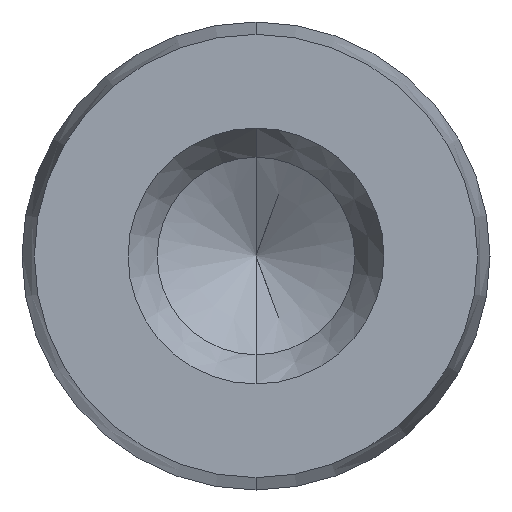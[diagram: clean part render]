
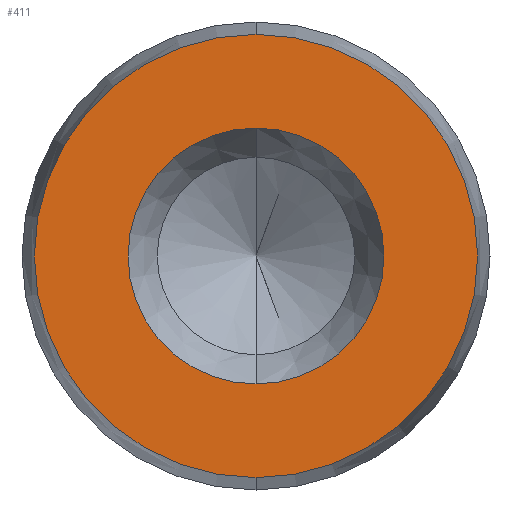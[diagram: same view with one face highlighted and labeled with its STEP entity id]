
A CAD part, front view. The second image highlights one B-rep face of the part: STEP entity #411.
In plain terms, the highlighted planar face has unit normal (0, -1, 0).
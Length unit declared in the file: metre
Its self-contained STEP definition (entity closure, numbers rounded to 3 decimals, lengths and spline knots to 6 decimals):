
#15 = DIRECTION ( 'NONE',  ( 0., -1., 0. ) ) ;
#20 = CARTESIAN_POINT ( 'NONE',  ( 0., 0., -0.007578 ) ) ;
#27 = DIRECTION ( 'NONE',  ( 0., 0., -1. ) ) ;
#33 = CARTESIAN_POINT ( 'NONE',  ( 0., 0., 0. ) ) ;
#57 = FACE_OUTER_BOUND ( 'NONE', #317, .T. ) ;
#100 = DIRECTION ( 'NONE',  ( 0., 0., -1. ) ) ;
#101 = DIRECTION ( 'NONE',  ( 0., -1., 0. ) ) ;
#118 = PLANE ( 'NONE',  #462 ) ;
#119 = CARTESIAN_POINT ( 'NONE',  ( 0., 0., 0. ) ) ;
#122 = DIRECTION ( 'NONE',  ( 0., -1., 0. ) ) ;
#146 = DIRECTION ( 'NONE',  ( 0., 0., -1. ) ) ;
#168 = CARTESIAN_POINT ( 'NONE',  ( 0., 0., 0.004375 ) ) ;
#179 = CARTESIAN_POINT ( 'NONE',  ( 0., 0., -0.004375 ) ) ;
#180 = CARTESIAN_POINT ( 'NONE',  ( 0., 0., 0. ) ) ;
#182 = DIRECTION ( 'NONE',  ( 0., 0., -1. ) ) ;
#184 = DIRECTION ( 'NONE',  ( 0., -1., 0. ) ) ;
#193 = CARTESIAN_POINT ( 'NONE',  ( 0.004375, 0., 0. ) ) ;
#195 = DIRECTION ( 'NONE',  ( 0., -1., 0. ) ) ;
#201 = DIRECTION ( 'NONE',  ( 0., 0., -1. ) ) ;
#213 = CARTESIAN_POINT ( 'NONE',  ( 0., 0., 0. ) ) ;
#233 = CARTESIAN_POINT ( 'NONE',  ( 0., 0., 0.007578 ) ) ;
#248 = FACE_BOUND ( 'NONE', #311, .T. ) ;
#284 = ORIENTED_EDGE ( 'NONE', *, *, #532, .T. ) ;
#295 = VERTEX_POINT ( 'NONE', #179 ) ;
#307 = VERTEX_POINT ( 'NONE', #233 ) ;
#311 = EDGE_LOOP ( 'NONE', ( #362, #377 ) ) ;
#313 = VERTEX_POINT ( 'NONE', #168 ) ;
#317 = EDGE_LOOP ( 'NONE', ( #374, #284 ) ) ;
#320 = VERTEX_POINT ( 'NONE', #20 ) ;
#362 = ORIENTED_EDGE ( 'NONE', *, *, #501, .F. ) ;
#374 = ORIENTED_EDGE ( 'NONE', *, *, #507, .T. ) ;
#377 = ORIENTED_EDGE ( 'NONE', *, *, #514, .F. ) ;
#411 = ADVANCED_FACE ( 'NONE', ( #57, #248 ), #118, .T. ) ;
#427 = AXIS2_PLACEMENT_3D ( 'NONE', #33, #15, #27 ) ;
#434 = CIRCLE ( 'NONE', #427, 0.004375 ) ;
#454 = AXIS2_PLACEMENT_3D ( 'NONE', #213, #122, #201 ) ;
#455 = AXIS2_PLACEMENT_3D ( 'NONE', #119, #101, #100 ) ;
#459 = CIRCLE ( 'NONE', #454, 0.007578 ) ;
#462 = AXIS2_PLACEMENT_3D ( 'NONE', #193, #195, #146 ) ;
#470 = CIRCLE ( 'NONE', #455, 0.004375 ) ;
#501 = EDGE_CURVE ( 'NONE', #295, #313, #470, .T. ) ;
#507 = EDGE_CURVE ( 'NONE', #307, #320, #459, .T. ) ;
#514 = EDGE_CURVE ( 'NONE', #313, #295, #434, .T. ) ;
#532 = EDGE_CURVE ( 'NONE', #320, #307, #557, .T. ) ;
#547 = AXIS2_PLACEMENT_3D ( 'NONE', #180, #184, #182 ) ;
#557 = CIRCLE ( 'NONE', #547, 0.007578 ) ;
